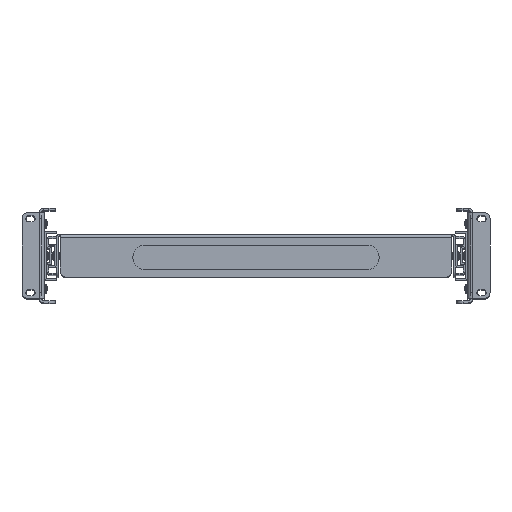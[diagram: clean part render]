
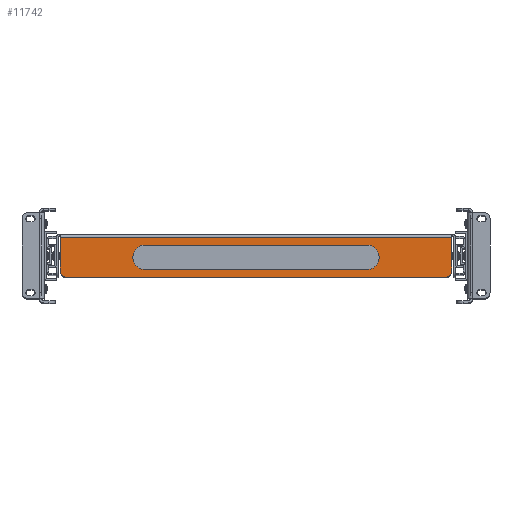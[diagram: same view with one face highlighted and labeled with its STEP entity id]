
A CAD part, top view. The second image highlights one B-rep face of the part: STEP entity #11742.
In plain terms, the highlighted planar face has unit normal (0, 0, 1).
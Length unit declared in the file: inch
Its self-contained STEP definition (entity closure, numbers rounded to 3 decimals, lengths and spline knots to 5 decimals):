
#1455 = EDGE_CURVE ( 'NONE', #8070, #7802, #12368, .T. ) ;
#1458 = EDGE_CURVE ( 'NONE', #7590, #7827, #12373, .T. ) ;
#1459 = EDGE_CURVE ( 'NONE', #7590, #8070, #12372, .T. ) ;
#1460 = EDGE_CURVE ( 'NONE', #7882, #7809, #12374, .T. ) ;
#1461 = EDGE_CURVE ( 'NONE', #7600, #7882, #12378, .T. ) ;
#1462 = EDGE_CURVE ( 'NONE', #7809, #7773, #12380, .T. ) ;
#1464 = EDGE_CURVE ( 'NONE', #7596, #7827, #12379, .T. ) ;
#1467 = EDGE_CURVE ( 'NONE', #7679, #7600, #12387, .T. ) ;
#1470 = EDGE_CURVE ( 'NONE', #7656, #7802, #12393, .T. ) ;
#1493 = EDGE_CURVE ( 'NONE', #7656, #7596, #12421, .T. ) ;
#1880 = EDGE_CURVE ( 'NONE', #7773, #7679, #12971, .T. ) ;
#2521 = AXIS2_PLACEMENT_3D ( 'NONE', #25371, #25361, #25360 ) ;
#2524 = AXIS2_PLACEMENT_3D ( 'NONE', #25348, #25340, #25338 ) ;
#2525 = AXIS2_PLACEMENT_3D ( 'NONE', #25363, #25351, #25350 ) ;
#2528 = AXIS2_PLACEMENT_3D ( 'NONE', #25352, #25336, #25335 ) ;
#2749 = AXIS2_PLACEMENT_3D ( 'NONE', #4935, #4940, #4947 ) ;
#3002 = AXIS2_PLACEMENT_3D ( 'NONE', #23738, #23737, #23736 ) ;
#4935 = CARTESIAN_POINT ( 'NONE',  ( 4.5, -0.947, 0. ) ) ;
#4940 = DIRECTION ( 'NONE',  ( 0., 0., 1. ) ) ;
#4947 = DIRECTION ( 'NONE',  ( -1., 0., 0. ) ) ;
#6625 = CARTESIAN_POINT ( 'NONE',  ( -4.5, -1.447, 0. ) ) ;
#6693 = CARTESIAN_POINT ( 'NONE',  ( 7.9481, -1.5, 0. ) ) ;
#6715 = CARTESIAN_POINT ( 'NONE',  ( 4.5, -1.447, 0. ) ) ;
#6722 = CARTESIAN_POINT ( 'NONE',  ( -7.9481, -1.5, 0. ) ) ;
#6758 = CARTESIAN_POINT ( 'NONE',  ( 5., -0.947, 0. ) ) ;
#6874 = CARTESIAN_POINT ( 'NONE',  ( 4.5, -0.447, 0. ) ) ;
#6900 = CARTESIAN_POINT ( 'NONE',  ( -7.9481, -0.152, 0. ) ) ;
#7073 = CARTESIAN_POINT ( 'NONE',  ( -4.5, -0.447, 0. ) ) ;
#7084 = CARTESIAN_POINT ( 'NONE',  ( 7.9481, -0.152, 0. ) ) ;
#7107 = CARTESIAN_POINT ( 'NONE',  ( 7.6981, -1.75, 0. ) ) ;
#7590 = VERTEX_POINT ( 'NONE', #7107 ) ;
#7596 = VERTEX_POINT ( 'NONE', #7084 ) ;
#7600 = VERTEX_POINT ( 'NONE', #7073 ) ;
#7656 = VERTEX_POINT ( 'NONE', #6900 ) ;
#7679 = VERTEX_POINT ( 'NONE', #6874 ) ;
#7773 = VERTEX_POINT ( 'NONE', #6758 ) ;
#7802 = VERTEX_POINT ( 'NONE', #6722 ) ;
#7809 = VERTEX_POINT ( 'NONE', #6715 ) ;
#7827 = VERTEX_POINT ( 'NONE', #6693 ) ;
#7882 = VERTEX_POINT ( 'NONE', #6625 ) ;
#8070 = VERTEX_POINT ( 'NONE', #15409 ) ;
#9932 = EDGE_LOOP ( 'NONE', ( #24543, #24544, #24545, #24546, #24547, #24548 ) ) ;
#10247 = EDGE_LOOP ( 'NONE', ( #24538, #24539, #24540, #24541, #24542 ) ) ;
#11742 = ADVANCED_FACE ( 'NONE', ( #17651, #17658 ), #23739, .F. ) ;
#12367 = VECTOR ( 'NONE', #25345, 39.37008 ) ;
#12368 = CIRCLE ( 'NONE', #2521, 0.25 ) ;
#12372 = LINE ( 'NONE', #25357, #12367 ) ;
#12373 = CIRCLE ( 'NONE', #2525, 0.25 ) ;
#12374 = LINE ( 'NONE', #25344, #12375 ) ;
#12375 = VECTOR ( 'NONE', #25342, 39.37008 ) ;
#12378 = CIRCLE ( 'NONE', #2524, 0.5 ) ;
#12379 = LINE ( 'NONE', #25341, #12381 ) ;
#12380 = CIRCLE ( 'NONE', #2528, 0.5 ) ;
#12381 = VECTOR ( 'NONE', #25327, 39.37008 ) ;
#12387 = LINE ( 'NONE', #25319, #12388 ) ;
#12388 = VECTOR ( 'NONE', #25318, 39.37008 ) ;
#12393 = LINE ( 'NONE', #25311, #12394 ) ;
#12394 = VECTOR ( 'NONE', #25309, 39.37008 ) ;
#12414 = VECTOR ( 'NONE', #14415, 39.37008 ) ;
#12421 = LINE ( 'NONE', #25208, #12414 ) ;
#12971 = CIRCLE ( 'NONE', #2749, 0.5 ) ;
#14415 = DIRECTION ( 'NONE',  ( 1., 0., 0. ) ) ;
#15409 = CARTESIAN_POINT ( 'NONE',  ( -7.6981, -1.75, 0. ) ) ;
#17651 = FACE_BOUND ( 'NONE', #10247, .T. ) ;
#17658 = FACE_OUTER_BOUND ( 'NONE', #9932, .T. ) ;
#23736 = DIRECTION ( 'NONE',  ( 0., 1., 0. ) ) ;
#23737 = DIRECTION ( 'NONE',  ( 0., 0., -1. ) ) ;
#23738 = CARTESIAN_POINT ( 'NONE',  ( 8.1, -1.75, 0. ) ) ;
#23739 = PLANE ( 'NONE',  #3002 ) ;
#24538 = ORIENTED_EDGE ( 'NONE', *, *, #1460, .F. ) ;
#24539 = ORIENTED_EDGE ( 'NONE', *, *, #1461, .F. ) ;
#24540 = ORIENTED_EDGE ( 'NONE', *, *, #1467, .F. ) ;
#24541 = ORIENTED_EDGE ( 'NONE', *, *, #1880, .F. ) ;
#24542 = ORIENTED_EDGE ( 'NONE', *, *, #1462, .F. ) ;
#24543 = ORIENTED_EDGE ( 'NONE', *, *, #1459, .F. ) ;
#24544 = ORIENTED_EDGE ( 'NONE', *, *, #1458, .T. ) ;
#24545 = ORIENTED_EDGE ( 'NONE', *, *, #1464, .F. ) ;
#24546 = ORIENTED_EDGE ( 'NONE', *, *, #1493, .F. ) ;
#24547 = ORIENTED_EDGE ( 'NONE', *, *, #1470, .T. ) ;
#24548 = ORIENTED_EDGE ( 'NONE', *, *, #1455, .F. ) ;
#25208 = CARTESIAN_POINT ( 'NONE',  ( 8.1, -0.152, 0. ) ) ;
#25309 = DIRECTION ( 'NONE',  ( 0., -1., 0. ) ) ;
#25311 = CARTESIAN_POINT ( 'NONE',  ( -7.9481, -0.072, 0. ) ) ;
#25318 = DIRECTION ( 'NONE',  ( -1., 0., 0. ) ) ;
#25319 = CARTESIAN_POINT ( 'NONE',  ( -4.5, -0.447, 0. ) ) ;
#25327 = DIRECTION ( 'NONE',  ( 0., -1., 0. ) ) ;
#25335 = DIRECTION ( 'NONE',  ( -1., 0., 0. ) ) ;
#25336 = DIRECTION ( 'NONE',  ( 0., 0., 1. ) ) ;
#25338 = DIRECTION ( 'NONE',  ( -1., 0., 0. ) ) ;
#25340 = DIRECTION ( 'NONE',  ( 0., 0., 1. ) ) ;
#25341 = CARTESIAN_POINT ( 'NONE',  ( 7.9481, -0.072, 0. ) ) ;
#25342 = DIRECTION ( 'NONE',  ( 1., 0., 0. ) ) ;
#25344 = CARTESIAN_POINT ( 'NONE',  ( 4.5, -1.447, 0. ) ) ;
#25345 = DIRECTION ( 'NONE',  ( -1., 0., 0. ) ) ;
#25348 = CARTESIAN_POINT ( 'NONE',  ( -4.5, -0.947, 0. ) ) ;
#25350 = DIRECTION ( 'NONE',  ( 0., 1., 0. ) ) ;
#25351 = DIRECTION ( 'NONE',  ( 0., 0., 1. ) ) ;
#25352 = CARTESIAN_POINT ( 'NONE',  ( 4.5, -0.947, 0. ) ) ;
#25357 = CARTESIAN_POINT ( 'NONE',  ( 8.1, -1.75, 0. ) ) ;
#25360 = DIRECTION ( 'NONE',  ( 0., 1., 0. ) ) ;
#25361 = DIRECTION ( 'NONE',  ( 0., 0., -1. ) ) ;
#25363 = CARTESIAN_POINT ( 'NONE',  ( 7.6981, -1.5, 0. ) ) ;
#25371 = CARTESIAN_POINT ( 'NONE',  ( -7.6981, -1.5, 0. ) ) ;
